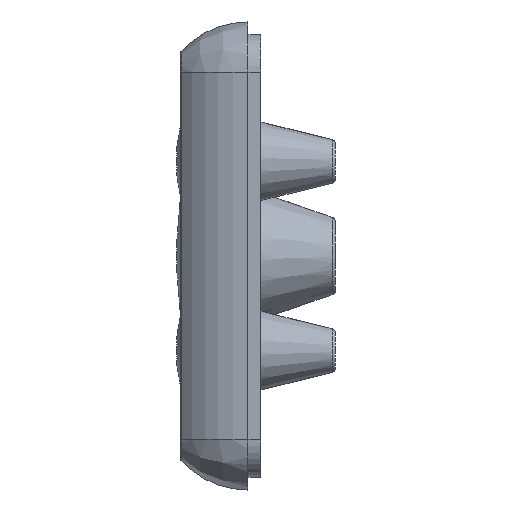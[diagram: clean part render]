
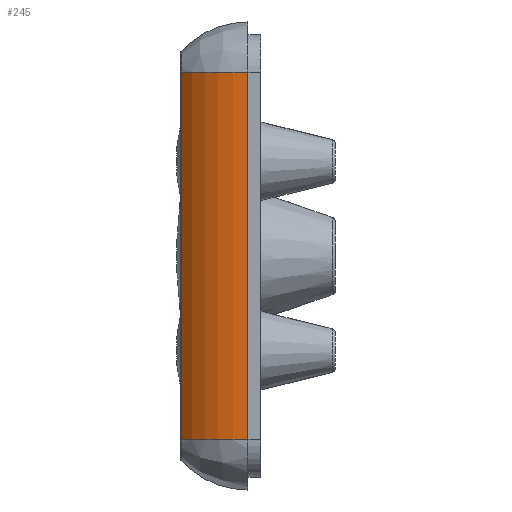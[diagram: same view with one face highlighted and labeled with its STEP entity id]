
A CAD part, left-side view. The second image highlights one B-rep face of the part: STEP entity #245.
In plain terms, the highlighted cylindrical face has radius 10.893 mm (diameter 21.786 mm), a partial arc.
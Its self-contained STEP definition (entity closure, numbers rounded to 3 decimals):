
#245 = ADVANCED_FACE( '', ( #610 ), #611, .T. );
#610 = FACE_OUTER_BOUND( '', #1185, .T. );
#611 = CYLINDRICAL_SURFACE( '', #1186, 10.893 );
#1185 = EDGE_LOOP( '', ( #1902, #1903, #1904, #1905 ) );
#1186 = AXIS2_PLACEMENT_3D( '', #1906, #1907, #1908 );
#1902 = ORIENTED_EDGE( '', *, *, #2739, .T. );
#1903 = ORIENTED_EDGE( '', *, *, #2783, .T. );
#1904 = ORIENTED_EDGE( '', *, *, #2784, .F. );
#1905 = ORIENTED_EDGE( '', *, *, #2673, .F. );
#1906 = CARTESIAN_POINT( '', ( -52.605, 0., 28. ) );
#1907 = DIRECTION( '', ( 0., 0., 1. ) );
#1908 = DIRECTION( '', ( -1., 0., 0. ) );
#2673 = EDGE_CURVE( '', #3039, #3042, #3043, .T. );
#2739 = EDGE_CURVE( '', #3039, #3030, #3152, .T. );
#2783 = EDGE_CURVE( '', #3030, #3220, #3221, .T. );
#2784 = EDGE_CURVE( '', #3042, #3220, #3222, .T. );
#3030 = VERTEX_POINT( '', #3568 );
#3039 = VERTEX_POINT( '', #3578 );
#3042 = VERTEX_POINT( '', #3581 );
#3043 = CIRCLE( '', #3582, 10.893 );
#3152 = LINE( '', #3721, #3722 );
#3220 = VERTEX_POINT( '', #3814 );
#3221 = CIRCLE( '', #3815, 10.893 );
#3222 = LINE( '', #3816, #3817 );
#3568 = CARTESIAN_POINT( '', ( -60., 7.998, -22. ) );
#3578 = CARTESIAN_POINT( '', ( -60., 7.998, 22. ) );
#3581 = CARTESIAN_POINT( '', ( -63.498, 0., 22. ) );
#3582 = AXIS2_PLACEMENT_3D( '', #4271, #4272, #4273 );
#3721 = CARTESIAN_POINT( '', ( -60., 7.998, 28. ) );
#3722 = VECTOR( '', #4384, 1000. );
#3814 = CARTESIAN_POINT( '', ( -63.498, 0., -22. ) );
#3815 = AXIS2_PLACEMENT_3D( '', #4448, #4449, #4450 );
#3816 = CARTESIAN_POINT( '', ( -63.498, 0., 28. ) );
#3817 = VECTOR( '', #4451, 1000. );
#4271 = CARTESIAN_POINT( '', ( -52.605, 0., 22. ) );
#4272 = DIRECTION( '', ( 0., 0., 1. ) );
#4273 = DIRECTION( '', ( 1., 0., 0. ) );
#4384 = DIRECTION( '', ( 0., 0., -1. ) );
#4448 = CARTESIAN_POINT( '', ( -52.605, 0., -22. ) );
#4449 = DIRECTION( '', ( 0., 0., 1. ) );
#4450 = DIRECTION( '', ( 1., 0., 0. ) );
#4451 = DIRECTION( '', ( 0., 0., -1. ) );
